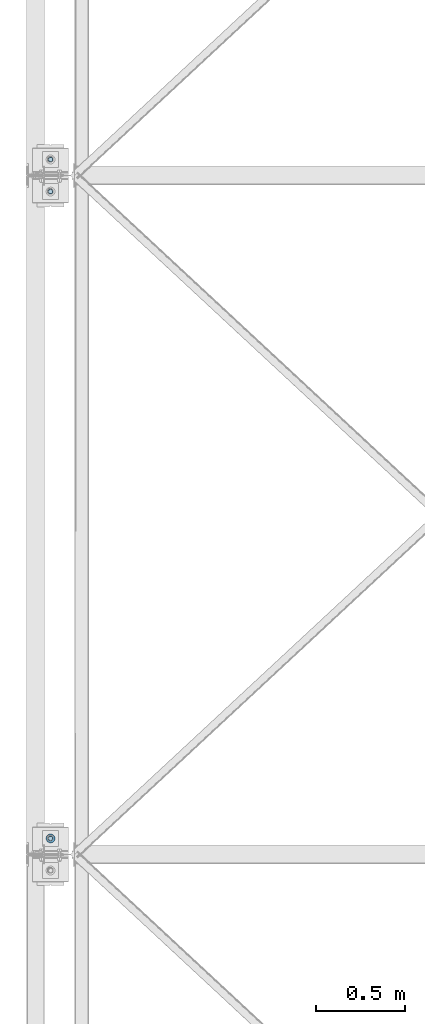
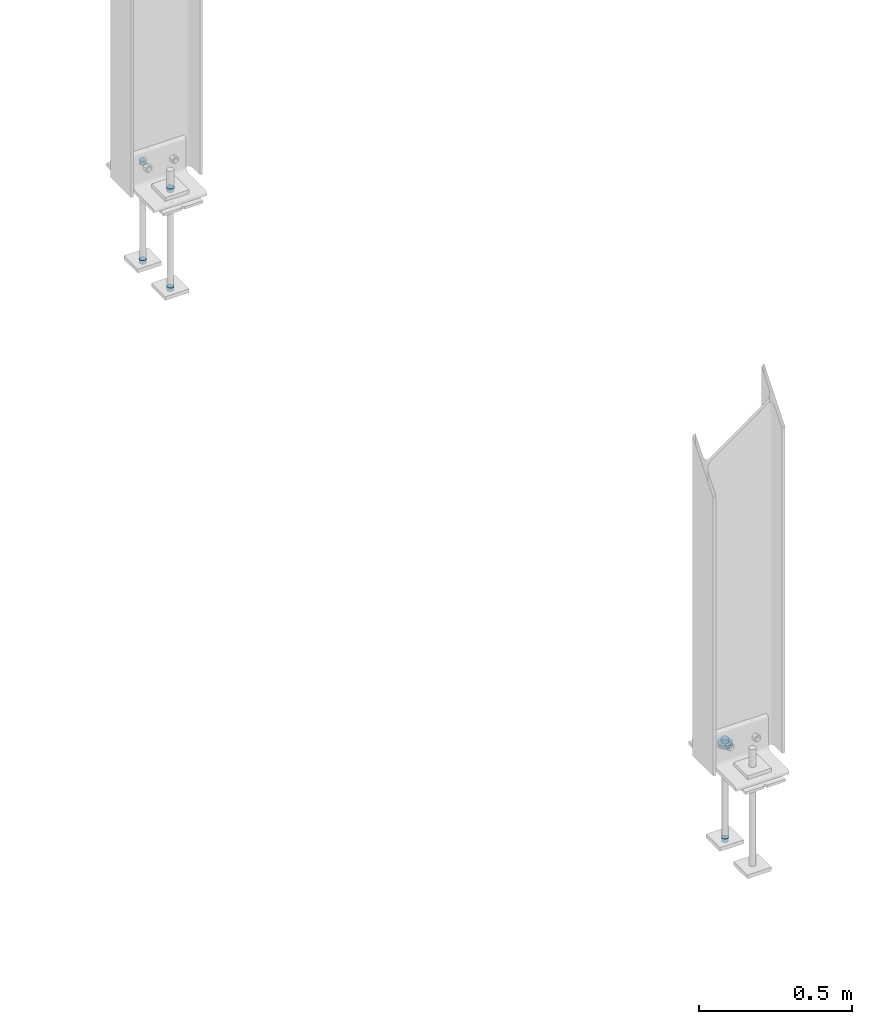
# One storey, part 97 of 123: 7 mechanical fasteners, 3 elements without a shape of their own.
"""IFC2X3 building model written with IfcOpenShell, lengths in millimetres."""

from ifc_helpers import new_model, si_unit, frame, origin_with_axes, origin_2d_with_axis, place, context, subcontext, project, spatial, circle, extrude, source, transform, mapped, material, type_object, element, aggregate, save


model = new_model("IFC2X3")

# Units and contexts
model_context = context("Model", 3, precision=1e-05, world=origin_with_axes())
body_context = subcontext(model_context, "Body", "Model", "MODEL_VIEW")
ifc_project = project(units=[si_unit("LENGTHUNIT", "METRE", prefix="MILLI"), si_unit("AREAUNIT", "SQUARE_METRE"), si_unit("VOLUMEUNIT", "CUBIC_METRE"), si_unit("MASSUNIT", "GRAM", prefix="KILO"), si_unit("TIMEUNIT", "SECOND"), si_unit("PLANEANGLEUNIT", "RADIAN"), si_unit("SOLIDANGLEUNIT", "STERADIAN"), si_unit("THERMODYNAMICTEMPERATUREUNIT", "DEGREE_CELSIUS"), si_unit("LUMINOUSINTENSITYUNIT", "LUMEN")], contexts=[model_context])

# Site, building, storey
site_placement = place(None, origin_with_axes())
site = spatial("IfcSite", under=ifc_project, at=site_placement, Name="Undefined", CompositionType="ELEMENT")
building_placement = place(site_placement, origin_with_axes())
building = spatial("IfcBuilding", under=site, at=building_placement, Name="Undefined", CompositionType="ELEMENT")
storey_placement = place(building_placement, origin_with_axes())
storey = spatial("IfcBuildingStorey", under=building, at=storey_placement, Name="Undefined", CompositionType="ELEMENT", Elevation=0.0)

# Assembly, mechanical fasteners
assembly_1_placement = place(storey_placement, origin_with_axes())
assembly_1 = element("IfcElementAssembly", 1, at=assembly_1_placement, inside=storey, Name="Steel Assembly", AssemblyPlace="NOTDEFINED", PredefinedType="RIGID_FRAME")
ifc_material = material(Name="6.8")
discrete_accessory_type = type_object("IfcDiscreteAccessoryType", Name="Bolt assembly")
shared_shape_1 = source(origin_with_axes(), body_context, "Body", "SweptSolid", [
    extrude(circle(Radius=13.0, at=origin_2d_with_axis()), frame((0.0, -15.0, 0.0), z_axis=(0.0, 1.0, 0.0), x_axis=(1.0, 0.0, 0.0)), (0.0, 0.0, 1.0), 15.1),
])
mechanical_fastener_1_placement = place(assembly_1_placement, frame((-45.0, 7509.99715044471, -235.0), z_axis=(1.0, 0.0, 0.0), x_axis=(0.0, -1.0, 0.0)))
mechanical_fastener_1 = element("IfcMechanicalFastener", 2, at=mechanical_fastener_1_placement, type_object=discrete_accessory_type, material=ifc_material, Name="Bolt assembly", NominalDiameter=24.0, NominalLength=15.0, context=body_context, shape_type="MappedRepresentation", body=[
    mapped(shared_shape_1, transform((0.0, 0.0, 0.0))),
])
mechanical_fastener_2_placement = place(assembly_1_placement, frame((-45.0, 7689.99715044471, -235.0), z_axis=(1.0, 0.0, 0.0), x_axis=(0.0, -1.0, 0.0)))
mechanical_fastener_2 = element("IfcMechanicalFastener", 3, at=mechanical_fastener_2_placement, type_object=discrete_accessory_type, material=ifc_material, Name="Bolt assembly", NominalDiameter=24.0, NominalLength=15.0, context=body_context, shape_type="MappedRepresentation", body=[
    mapped(shared_shape_1, transform((0.0, 0.0, 0.0))),
])

# Assembly, mechanical fastener
assembly_2_placement = place(storey_placement, origin_with_axes())
assembly_2 = element("IfcElementAssembly", 4, at=assembly_2_placement, inside=storey, Name="Steel Assembly", AssemblyPlace="NOTDEFINED", PredefinedType="RIGID_FRAME")
mechanical_fastener_3_placement = place(assembly_2_placement, frame((-45.0, 3889.99715044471, -235.0), z_axis=(1.0, 0.0, 0.0), x_axis=(0.0, -1.0, 0.0)))
mechanical_fastener_3 = element("IfcMechanicalFastener", 5, at=mechanical_fastener_3_placement, type_object=discrete_accessory_type, material=ifc_material, Name="Bolt assembly", NominalDiameter=24.0, NominalLength=15.0, context=body_context, shape_type="MappedRepresentation", body=[
    mapped(shared_shape_1, transform((0.0, 0.0, 0.0))),
])

# Mechanical fastener
shared_shape_2 = source(origin_with_axes(), body_context, "Body", "SweptSolid", [
    extrude(circle(Radius=12.0, at=origin_2d_with_axis()), frame((0.0, -15.0, 0.0), z_axis=(0.0, 1.0, 0.0), x_axis=(1.0, 0.0, 0.0)), (0.0, 0.0, 1.0), 15.1),
])
mechanical_fastener_4_placement = place(assembly_1_placement, frame((-45.0, 7509.99715044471, -630.0), z_axis=(1.0, 0.0, 0.0), x_axis=(0.0, -1.0, 0.0)))
mechanical_fastener_4 = element("IfcMechanicalFastener", 6, at=mechanical_fastener_4_placement, type_object=discrete_accessory_type, material=ifc_material, Name="Bolt assembly", NominalDiameter=22.0, NominalLength=15.0, context=body_context, shape_type="MappedRepresentation", body=[
    mapped(shared_shape_2, transform((0.0, 0.0, 0.0))),
])

mechanical_fastener_5_placement = place(assembly_1_placement, frame((-45.0, 7689.99715044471, -630.0), z_axis=(1.0, 0.0, 0.0), x_axis=(0.0, -1.0, 0.0)))
mechanical_fastener_5 = element("IfcMechanicalFastener", 7, at=mechanical_fastener_5_placement, type_object=discrete_accessory_type, material=ifc_material, Name="Bolt assembly", NominalDiameter=22.0, NominalLength=15.0, context=body_context, shape_type="MappedRepresentation", body=[
    mapped(shared_shape_2, transform((0.0, 0.0, 0.0))),
])

aggregate(assembly_1, [mechanical_fastener_1, mechanical_fastener_2, mechanical_fastener_4, mechanical_fastener_5])

mechanical_fastener_6_placement = place(assembly_2_placement, frame((-45.0, 3889.99715044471, -630.0), z_axis=(1.0, 0.0, 0.0), x_axis=(0.0, -1.0, 0.0)))
mechanical_fastener_6 = element("IfcMechanicalFastener", 8, at=mechanical_fastener_6_placement, type_object=discrete_accessory_type, material=ifc_material, Name="Bolt assembly", NominalDiameter=22.0, NominalLength=15.0, context=body_context, shape_type="MappedRepresentation", body=[
    mapped(shared_shape_2, transform((0.0, 0.0, 0.0))),
])

aggregate(assembly_2, [mechanical_fastener_3, mechanical_fastener_6])

# Assembly, mechanical fastener
assembly_3_placement = place(storey_placement, origin_with_axes())
assembly_3 = element("IfcElementAssembly", 9, at=assembly_3_placement, inside=storey, Name="Steel Assembly", AssemblyPlace="NOTDEFINED", PredefinedType="RIGID_FRAME")
shared_shape_3 = source(origin_with_axes(), body_context, "Body", "SweptSolid", [
    extrude(circle(Radius=25.0, at=origin_2d_with_axis()), frame((0.0, -15.0, 0.0), z_axis=(0.0, 1.0, 0.0), x_axis=(1.0, 0.0, 0.0)), (0.0, 0.0, 1.0), 15.1),
])
mechanical_fastener_7_placement = place(assembly_3_placement, frame((-45.0, 3890.0, -250.0), z_axis=(1.0, 0.0, 0.0), x_axis=(0.0, -1.0, 0.0)))
mechanical_fastener_7 = element("IfcMechanicalFastener", 10, at=mechanical_fastener_7_placement, type_object=discrete_accessory_type, material=ifc_material, Name="Bolt assembly", NominalDiameter=30.0, NominalLength=15.0, context=body_context, shape_type="MappedRepresentation", body=[
    mapped(shared_shape_3, transform((0.0, 0.0, 0.0))),
])
aggregate(assembly_3, [mechanical_fastener_7])

save(model, "model.ifc")
